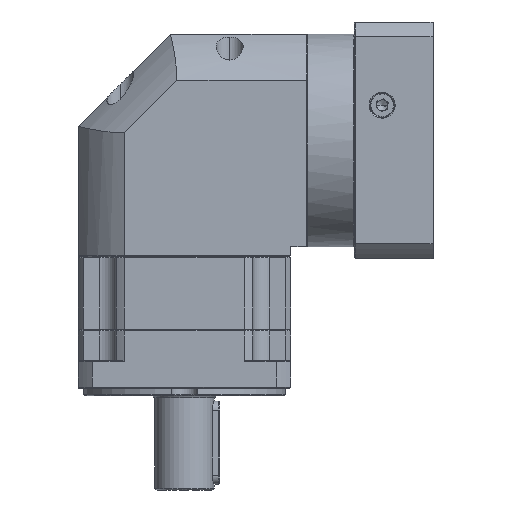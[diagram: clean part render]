
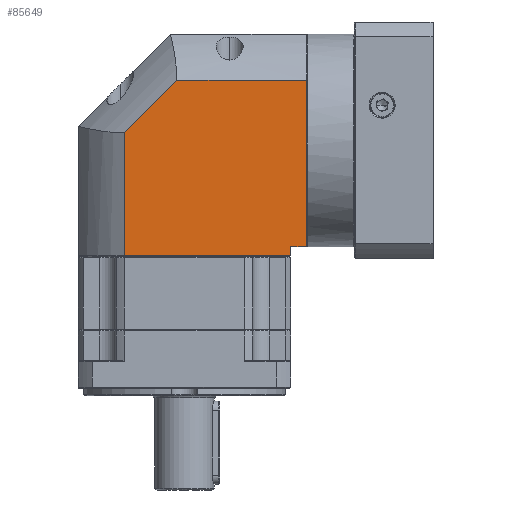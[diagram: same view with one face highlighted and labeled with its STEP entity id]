
A CAD part, front view. The second image highlights one B-rep face of the part: STEP entity #85649.
In plain terms, the highlighted planar face has unit normal (0, -1, 0).
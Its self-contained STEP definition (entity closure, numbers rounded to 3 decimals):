
#2219 = VERTEX_POINT ( 'NONE', #8075 ) ;
#4386 = CARTESIAN_POINT ( 'NONE',  ( -6.634, 23.455, -30.203 ) ) ;
#4749 = AXIS2_PLACEMENT_3D ( 'NONE', #50718, #9340, #125337 ) ;
#5789 = FACE_OUTER_BOUND ( 'NONE', #93245, .T. ) ;
#6007 = DIRECTION ( 'NONE',  ( -1., 0., 0. ) ) ;
#8075 = CARTESIAN_POINT ( 'NONE',  ( 108.366, 23.455, -30.203 ) ) ;
#8337 = VECTOR ( 'NONE', #6007, 1000. ) ;
#9340 = DIRECTION ( 'NONE',  ( 0., 1., 0. ) ) ;
#10116 = VERTEX_POINT ( 'NONE', #48066 ) ;
#11059 = CARTESIAN_POINT ( 'NONE',  ( 108.366, 23.455, -25.203 ) ) ;
#16496 = DIRECTION ( 'NONE',  ( -1., 0., 0. ) ) ;
#18678 = PLANE ( 'NONE',  #4749 ) ;
#19966 = DIRECTION ( 'NONE',  ( 0., 0., -1. ) ) ;
#26627 = LINE ( 'NONE', #50144, #8337 ) ;
#27678 = LINE ( 'NONE', #132549, #130968 ) ;
#31121 = CARTESIAN_POINT ( 'NONE',  ( 18.466, 23.455, 36.359 ) ) ;
#32922 = DIRECTION ( 'NONE',  ( 0.707, 0., 0.707 ) ) ;
#33915 = ORIENTED_EDGE ( 'NONE', *, *, #119937, .F. ) ;
#36235 = VECTOR ( 'NONE', #48743, 1000. ) ;
#38318 = CARTESIAN_POINT ( 'NONE',  ( 46.804, 23.455, 64.697 ) ) ;
#40706 = EDGE_CURVE ( 'NONE', #10116, #41883, #137328, .T. ) ;
#41883 = VERTEX_POINT ( 'NONE', #38318 ) ;
#43363 = VECTOR ( 'NONE', #16496, 1000. ) ;
#45788 = EDGE_CURVE ( 'NONE', #134343, #73902, #26627, .T. ) ;
#46775 = ORIENTED_EDGE ( 'NONE', *, *, #103633, .F. ) ;
#48066 = CARTESIAN_POINT ( 'NONE',  ( 18.466, 23.455, 36.359 ) ) ;
#48743 = DIRECTION ( 'NONE',  ( 1., 0., 0. ) ) ;
#50144 = CARTESIAN_POINT ( 'NONE',  ( -6.634, 23.455, -25.203 ) ) ;
#50718 = CARTESIAN_POINT ( 'NONE',  ( -6.634, 23.455, -36.703 ) ) ;
#56094 = ORIENTED_EDGE ( 'NONE', *, *, #98168, .F. ) ;
#57349 = VECTOR ( 'NONE', #32922, 1000. ) ;
#59880 = LINE ( 'NONE', #122865, #36235 ) ;
#61770 = LINE ( 'NONE', #4386, #43363 ) ;
#70410 = VECTOR ( 'NONE', #19966, 1000. ) ;
#71900 = EDGE_CURVE ( 'NONE', #73902, #2219, #102107, .T. ) ;
#73515 = CARTESIAN_POINT ( 'NONE',  ( 108.366, 23.455, -36.703 ) ) ;
#73902 = VERTEX_POINT ( 'NONE', #11059 ) ;
#81109 = CARTESIAN_POINT ( 'NONE',  ( 116.766, 23.455, 64.697 ) ) ;
#84237 = DIRECTION ( 'NONE',  ( 0., 0., 1. ) ) ;
#84875 = ORIENTED_EDGE ( 'NONE', *, *, #71900, .F. ) ;
#85288 = CARTESIAN_POINT ( 'NONE',  ( 18.466, 23.455, -30.203 ) ) ;
#85649 = ADVANCED_FACE ( 'NONE', ( #5789 ), #18678, .F. ) ;
#93245 = EDGE_LOOP ( 'NONE', ( #84875, #97889, #131549, #33915, #106000, #56094, #46775 ) ) ;
#97889 = ORIENTED_EDGE ( 'NONE', *, *, #45788, .F. ) ;
#98168 = EDGE_CURVE ( 'NONE', #106835, #10116, #128595, .T. ) ;
#101391 = EDGE_CURVE ( 'NONE', #122176, #134343, #27678, .T. ) ;
#102107 = LINE ( 'NONE', #73515, #70410 ) ;
#103633 = EDGE_CURVE ( 'NONE', #2219, #106835, #61770, .T. ) ;
#106000 = ORIENTED_EDGE ( 'NONE', *, *, #40706, .F. ) ;
#106835 = VERTEX_POINT ( 'NONE', #85288 ) ;
#115887 = CARTESIAN_POINT ( 'NONE',  ( 18.466, 23.455, -36.703 ) ) ;
#119937 = EDGE_CURVE ( 'NONE', #41883, #122176, #59880, .T. ) ;
#122176 = VERTEX_POINT ( 'NONE', #81109 ) ;
#122865 = CARTESIAN_POINT ( 'NONE',  ( -6.634, 23.455, 64.697 ) ) ;
#123980 = DIRECTION ( 'NONE',  ( 0., 0., -1. ) ) ;
#125337 = DIRECTION ( 'NONE',  ( 1., 0., 0. ) ) ;
#127996 = CARTESIAN_POINT ( 'NONE',  ( 116.766, 23.455, -25.203 ) ) ;
#128595 = LINE ( 'NONE', #115887, #135295 ) ;
#130968 = VECTOR ( 'NONE', #123980, 1000. ) ;
#131549 = ORIENTED_EDGE ( 'NONE', *, *, #101391, .F. ) ;
#132549 = CARTESIAN_POINT ( 'NONE',  ( 116.766, 23.455, -36.703 ) ) ;
#134343 = VERTEX_POINT ( 'NONE', #127996 ) ;
#135295 = VECTOR ( 'NONE', #84237, 1000. ) ;
#137328 = LINE ( 'NONE', #31121, #57349 ) ;
